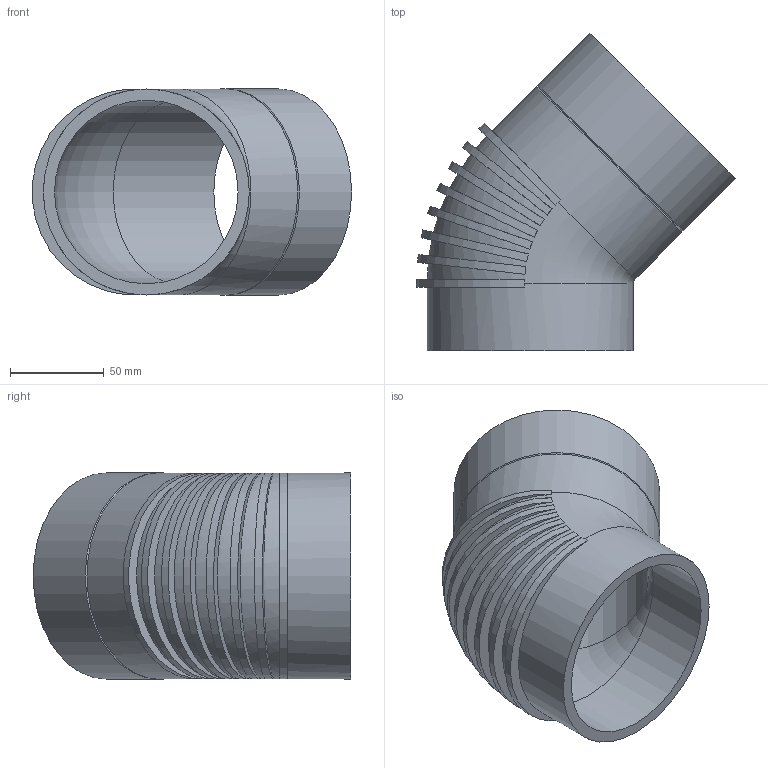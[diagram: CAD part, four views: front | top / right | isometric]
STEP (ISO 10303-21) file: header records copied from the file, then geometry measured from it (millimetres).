
FILE_DESCRIPTION(/* description */ (''),/* implementation_level */ '2;1');
FILE_NAME(/* name */ 'Z:\Geberit\Export\NewStep\Bogen_Ipart\stp\310450.stp',/* time_stamp */ '2014-04-03T16:42:52+02:00',/* author */ ('Marco'),/* organization */ (''),/* preprocessor_version */ 'ST-DEVELOPER v15.2',/* originating_system */ 'Autodesk Inventor 2014',/* authorisation */ '');
FILE_SCHEMA (('AUTOMOTIVE_DESIGN { 1 0 10303 214 3 1 1 }'));
Length unit declared in the file: millimetre
Products named in the file (1): 310450
Bounding box: 170.4 x 169.6 x 110 mm (x, y, z)
Volume: 330715.6 mm3; surface area: 118262.7 mm2
Topology: 1 solids, 1 shells, 35 faces, 96 edges, 63 vertices
Faces by surface type: plane 18, cylinder 13, cone 2, torus 2
Full cylindrical faces by diameter (mm): 98 x2, 110 x3
Entity records: 1516 total; most frequent: CARTESIAN_POINT 712, ORIENTED_EDGE 154, DIRECTION 134, EDGE_CURVE 77, AXIS2_PLACEMENT_3D 65, VERTEX_POINT 59, EDGE_LOOP 52, B_SPLINE_CURVE_WITH_KNOTS 44
